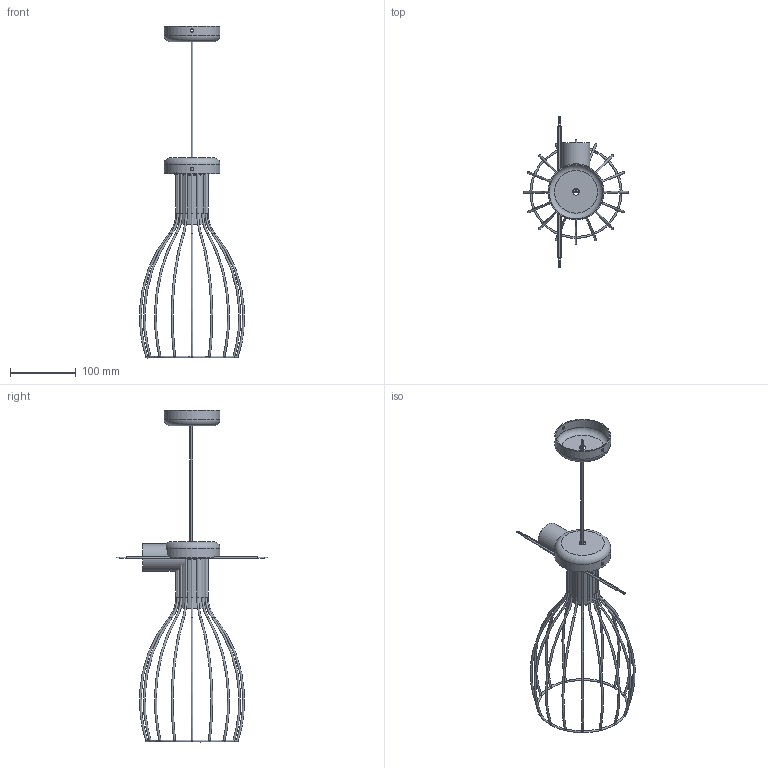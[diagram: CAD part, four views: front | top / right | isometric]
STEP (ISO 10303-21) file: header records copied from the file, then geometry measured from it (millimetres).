
FILE_DESCRIPTION( ( 'STEP AP203' ), '1' );
FILE_NAME( '//srvbf/BF Disegni/DENISSE/SOSPENSIONE/DENISSE-S 3D.stp', '2020-10-22T07:48:55', ( ' ' ), ( ' ' ), 'XStep 1.0', ' ', ' ' );
FILE_SCHEMA( ( 'CONFIG_CONTROL_DESIGN) ( )' ) );
Length unit declared in the file: metre
Products named in the file (6): Assem1; 1; 2; 3; 4; 5
Bounding box: 159.54 x 230 x 504 mm (x, y, z)
Volume: 124861.8 mm3; surface area: 194474.5 mm2
Topology: 10 solids, 10 shells, 224 faces, 434 edges, 278 vertices
Faces by surface type: cylinder 78, torus 74, plane 72
Full cylindrical faces by diameter (mm): 1 x8, 1.5 x8, 3 x32, 5 x4, 10 x2, 10.5 x2, 41 x2, 42 x2, 42.8 x2, 82 x2, 85 x2
Entity records: 3860 total; most frequent: CARTESIAN_POINT 1566, DIRECTION 436, ORIENTED_EDGE 284, EDGE_LOOP 216, AXIS2_PLACEMENT_3D 212, FACE_OUTER_BOUND 180, EDGE_CURVE 142, VERTEX_POINT 134
